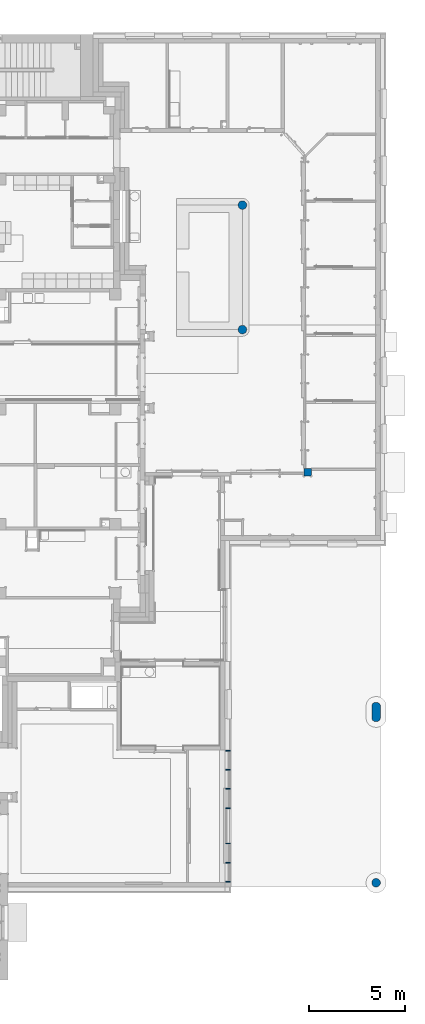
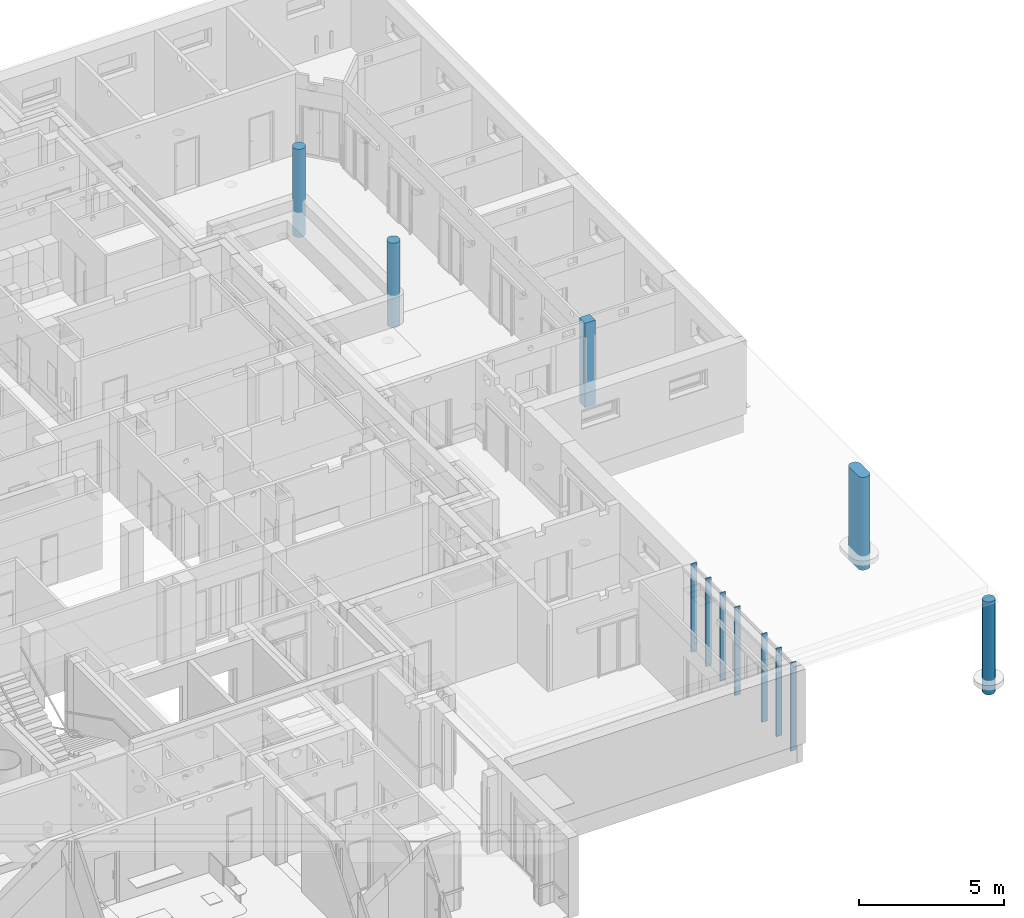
# One storey, part 3 of 140: 12 columns.
"""IFC4 building model written with IfcOpenShell, lengths in metres."""

from ifc_helpers import new_model, entity, si_unit, converted_unit, derived_unit, frame, frame_2d, origin, origin_with_axes, place, context, subcontext, project, spatial, polyline, rectangle, circle, outline, extrude, material, element, save


model = new_model("IFC4")

# Units and contexts
model_context = context("Model", 3, precision=1e-05, world=origin())
body_context = subcontext(model_context, "Body", "Model", "MODEL_VIEW")
ifc_project = project(units=[si_unit("LENGTHUNIT", "METRE"), si_unit("AREAUNIT", "SQUARE_METRE"), si_unit("VOLUMEUNIT", "CUBIC_METRE"), si_unit("MASSUNIT", "GRAM", prefix="KILO"), converted_unit("PLANEANGLEUNIT", "DEGREE", entity("IfcPlaneAngleMeasure", 0.0174532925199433), si_unit("PLANEANGLEUNIT", "RADIAN"), dimensions=[0, 0, 0, 0, 0, 0, 0]), derived_unit("THERMALTRANSMITTANCEUNIT", [(si_unit("POWERUNIT", "WATT"), 1), (si_unit("THERMODYNAMICTEMPERATUREUNIT", "KELVIN"), -1), (si_unit("LENGTHUNIT", "METRE"), -2)]), derived_unit("VOLUMETRICFLOWRATEUNIT", [(si_unit("LENGTHUNIT", "METRE"), 3), (converted_unit("TIMEUNIT", "hour", entity("IfcTimeMeasure", 3600.0), si_unit("TIMEUNIT", "SECOND"), dimensions=[0, 0, 1, 0, 0, 0, 0]), -1), (si_unit("LENGTHUNIT", "METRE"), -1)])], contexts=[model_context])

# Site, building, storey
site_placement = place(None, origin())
site = spatial("IfcSite", under=ifc_project, at=site_placement, Name="3. ASŘ", CompositionType="ELEMENT")
building_placement = place(site_placement, origin())
building = spatial("IfcBuilding", under=site, at=building_placement, Name="Pavilon C", CompositionType="ELEMENT")
storey_placement = place(building_placement, origin())
storey = spatial("IfcBuildingStorey", under=building, at=storey_placement, Name="Půdorys 1.NP", CompositionType="ELEMENT", Elevation=0.0)

# Columns
ifc_material_1 = material(Name="ZELEZOBETONOVÁ KCE")
column_1_placement = place(storey_placement, frame((56.375, 17.125, -0.15)))
element("IfcColumn", 1, at=column_1_placement, inside=storey, material=ifc_material_1, PredefinedType="COLUMN", context=body_context, shape_type="SweptSolid", body=[
    extrude(circle(Radius=0.224999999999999, at=frame_2d((0.224999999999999, 0.224999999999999), x_axis=(1.0, 0.0))), origin_with_axes(), (0.0, 0.0, 1.0), 3.55),
])
ifc_material_2 = material(Name="ZELEZOBETONOVÁ KCE")
column_2_placement = place(storey_placement, frame((56.375, 23.625, -0.3)))
element("IfcColumn", 2, at=column_2_placement, inside=storey, material=ifc_material_2, PredefinedType="COLUMN", context=body_context, shape_type="SweptSolid", body=[
    extrude(circle(Radius=0.224999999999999, at=frame_2d((0.224999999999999, 0.224999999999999), x_axis=(1.0, 0.0))), origin_with_axes(), (0.0, 0.0, 1.0), 3.7),
])
ifc_material_3 = material(Name="ZELEZOBETONOVÁ KCE")
column_3_placement = place(storey_placement, frame((59.8, 9.69999999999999, -0.15)))
element("IfcColumn", 3, at=column_3_placement, inside=storey, material=ifc_material_3, PredefinedType="COLUMN", context=body_context, shape_type="SweptSolid", body=[
    extrude(rectangle(XDim=0.4, YDim=0.4, at=frame_2d((0.2, 0.2), x_axis=(1.0, 0.0))), origin_with_axes(), (0.0, 0.0, 1.0), 3.55),
])
ifc_material_4 = material(Name="PROSKLENÁ FASÁDA - SLOUPEK")
column_4_placement = place(storey_placement, frame((55.73, -9.44999999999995, -0.3)))
element("IfcColumn", 4, at=column_4_placement, inside=storey, material=ifc_material_4, PredefinedType="COLUMN", context=body_context, shape_type="SweptSolid", body=[
    extrude(rectangle(XDim=0.05, YDim=0.22, at=frame_2d((0.11, -0.0250000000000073), x_axis=(0.0, -1.0))), origin_with_axes(), (0.0, 0.0, 1.0), 3.7),
])
ifc_material_5 = material(Name="PROSKLENÁ FASÁDA - SLOUPEK")
column_5_placement = place(storey_placement, frame((55.73, -7.59999999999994, -0.3)))
element("IfcColumn", 5, at=column_5_placement, inside=storey, material=ifc_material_5, PredefinedType="COLUMN", context=body_context, shape_type="SweptSolid", body=[
    extrude(rectangle(XDim=0.05, YDim=0.220000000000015, at=frame_2d((0.110000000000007, -0.0250000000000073), x_axis=(0.0, -1.0))), origin_with_axes(), (0.0, 0.0, 1.0), 3.7),
])
ifc_material_6 = material(Name="PROSKLENÁ FASÁDA - SLOUPEK")
column_6_placement = place(storey_placement, frame((55.73, -6.59999999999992, -0.3)))
element("IfcColumn", 6, at=column_6_placement, inside=storey, material=ifc_material_6, PredefinedType="COLUMN", context=body_context, shape_type="SweptSolid", body=[
    extrude(rectangle(XDim=0.05, YDim=0.220000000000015, at=frame_2d((0.11, -0.0250000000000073), x_axis=(-2.91038304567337e-13, -1.0))), origin_with_axes(), (0.0, 0.0, 1.0), 3.7),
])
ifc_material_7 = material(Name="PROSKLENÁ FASÁDA - SLOUPEK")
column_7_placement = place(storey_placement, frame((55.73, -5.59999999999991, -0.3)))
element("IfcColumn", 7, at=column_7_placement, inside=storey, material=ifc_material_7, PredefinedType="COLUMN", context=body_context, shape_type="SweptSolid", body=[
    extrude(rectangle(XDim=0.05, YDim=0.220000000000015, at=frame_2d((0.11, -0.0250000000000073), x_axis=(-2.91038304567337e-13, -1.0))), origin_with_axes(), (0.0, 0.0, 1.0), 3.7),
])
ifc_material_8 = material(Name="PROSKLENÁ FASÁDA - SLOUPEK")
column_8_placement = place(storey_placement, frame((55.7299999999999, -4.59999999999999, -0.3)))
element("IfcColumn", 8, at=column_8_placement, inside=storey, material=ifc_material_8, PredefinedType="COLUMN", context=body_context, shape_type="SweptSolid", body=[
    extrude(rectangle(XDim=0.05, YDim=0.22, at=frame_2d((0.11, -0.0250000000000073), x_axis=(0.0, -1.0))), origin_with_axes(), (0.0, 0.0, 1.0), 3.7),
])
ifc_material_9 = material(Name="PROSKLENÁ FASÁDA - SLOUPEK")
column_9_placement = place(storey_placement, frame((55.73, -11.45, -0.3)))
element("IfcColumn", 9, at=column_9_placement, inside=storey, material=ifc_material_9, PredefinedType="COLUMN", context=body_context, shape_type="SweptSolid", body=[
    extrude(rectangle(XDim=0.05, YDim=0.220000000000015, at=frame_2d((0.11, -0.0250000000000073), x_axis=(-2.91038304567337e-13, -1.0))), origin_with_axes(), (0.0, 0.0, 1.0), 3.7),
])
ifc_material_10 = material(Name="PROSKLENÁ FASÁDA - SLOUPEK")
column_10_placement = place(storey_placement, frame((55.73, -10.45, -0.3)))
element("IfcColumn", 10, at=column_10_placement, inside=storey, material=ifc_material_10, PredefinedType="COLUMN", context=body_context, shape_type="SweptSolid", body=[
    extrude(rectangle(XDim=0.05, YDim=0.220000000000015, at=frame_2d((0.11, -0.0250000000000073), x_axis=(-2.91038304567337e-13, -1.0))), origin_with_axes(), (0.0, 0.0, 1.0), 3.7),
])
ifc_material_11 = material(Name="ZELEZOBETONOVÁ KCE")
column_11_placement = place(storey_placement, frame((63.35, -3.11000000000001, -0.5)))
element("IfcColumn", 11, at=column_11_placement, inside=storey, material=ifc_material_11, PredefinedType="COLUMN", context=body_context, shape_type="SweptSolid", body=[
    extrude(outline(polyline([(0.0, 0.8), (0.0, 0.2), (0.003038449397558, 0.165270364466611), (0.0120614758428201, 0.131595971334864), (0.0267949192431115, 0.1), (0.046791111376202, 0.0714424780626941), (0.0714424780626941, 0.046791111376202), (0.1, 0.0267949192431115), (0.131595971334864, 0.0120614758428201), (0.165270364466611, 0.003038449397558), (0.2, 0.0), (0.25, 0.0), (0.284729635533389, 0.003038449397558), (0.318404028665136, 0.0120614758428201), (0.35, 0.0267949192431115), (0.378557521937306, 0.046791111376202), (0.403208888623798, 0.0714424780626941), (0.423205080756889, 0.1), (0.43793852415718, 0.131595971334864), (0.446961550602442, 0.165270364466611), (0.45, 0.2), (0.45, 0.8), (0.446961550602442, 0.834729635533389), (0.43793852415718, 0.868404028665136), (0.423205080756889, 0.9), (0.403208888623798, 0.928557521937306), (0.378557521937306, 0.953208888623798), (0.35, 0.973205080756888), (0.318404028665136, 0.98793852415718), (0.284729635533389, 0.996961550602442), (0.25, 1.0), (0.2, 1.0), (0.165270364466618, 0.996961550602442), (0.131595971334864, 0.98793852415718), (0.1, 0.973205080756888), (0.0714424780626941, 0.953208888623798), (0.046791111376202, 0.928557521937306), (0.0267949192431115, 0.9), (0.0120614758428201, 0.868404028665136), (0.003038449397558, 0.834729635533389), (0.0, 0.8)])), origin_with_axes(), (0.0, 0.0, 1.0), 3.9),
])
ifc_material_12 = material(Name="ZELEZOBETONOVÁ KCE")
column_12_placement = place(storey_placement, frame((63.35, -11.75, -0.5)))
element("IfcColumn", 12, at=column_12_placement, inside=storey, material=ifc_material_12, PredefinedType="COLUMN", context=body_context, shape_type="SweptSolid", body=[
    extrude(circle(Radius=0.225, at=frame_2d((0.225, 0.225), x_axis=(1.0, 0.0))), origin_with_axes(), (0.0, 0.0, 1.0), 3.9),
])

save(model, "model.ifc")
